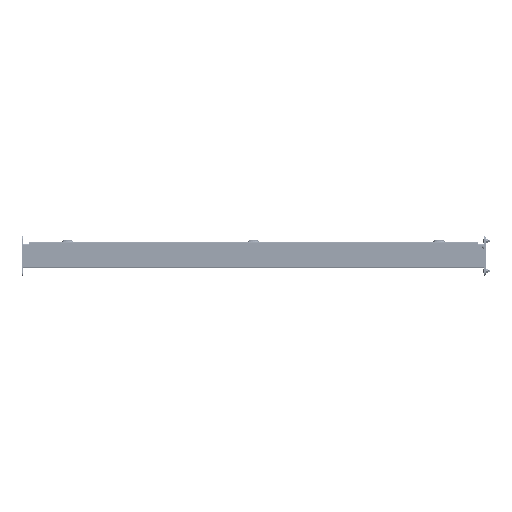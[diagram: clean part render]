
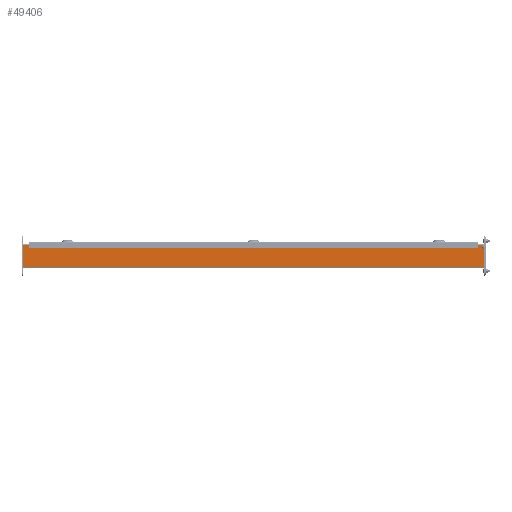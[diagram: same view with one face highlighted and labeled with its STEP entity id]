
A CAD part, left-side view. The second image highlights one B-rep face of the part: STEP entity #49406.
In plain terms, the highlighted planar face has unit normal (-1, 0, 0).
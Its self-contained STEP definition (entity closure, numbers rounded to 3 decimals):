
#3305=PLANE('',#53235);
#4596=FACE_OUTER_BOUND('',#7681,.T.);
#7681=EDGE_LOOP('',(#33479,#33480,#33481,#33482));
#10915=LINE('',#71734,#14943);
#10923=LINE('',#71759,#14951);
#10932=LINE('',#71784,#14960);
#10934=LINE('',#71791,#14962);
#14943=VECTOR('',#58110,0.394);
#14951=VECTOR('',#58140,0.394);
#14960=VECTOR('',#58161,0.394);
#14962=VECTOR('',#58169,0.394);
#21006=VERTEX_POINT('',#71731);
#21007=VERTEX_POINT('',#71733);
#21013=VERTEX_POINT('',#71757);
#21023=VERTEX_POINT('',#71783);
#25724=EDGE_CURVE('',#21007,#21006,#10915,.T.);
#25737=EDGE_CURVE('',#21006,#21013,#10923,.T.);
#25750=EDGE_CURVE('',#21023,#21007,#10932,.T.);
#25754=EDGE_CURVE('',#21013,#21023,#10934,.T.);
#33479=ORIENTED_EDGE('',*,*,#25724,.T.);
#33480=ORIENTED_EDGE('',*,*,#25737,.T.);
#33481=ORIENTED_EDGE('',*,*,#25754,.T.);
#33482=ORIENTED_EDGE('',*,*,#25750,.T.);
#49406=ADVANCED_FACE('',(#4596),#3305,.F.);
#53235=AXIS2_PLACEMENT_3D('',#71790,#58167,#58168);
#58110=DIRECTION('',(0.,1.,0.));
#58140=DIRECTION('',(0.,0.,-1.));
#58161=DIRECTION('',(0.,0.,1.));
#58167=DIRECTION('center_axis',(1.,0.,0.));
#58168=DIRECTION('ref_axis',(0.,0.,-1.));
#58169=DIRECTION('',(0.,-1.,0.));
#71731=CARTESIAN_POINT('',(-1.25,23.813,2.414));
#71733=CARTESIAN_POINT('',(-1.25,-23.813,2.414));
#71734=CARTESIAN_POINT('',(-1.25,-11.906,2.414));
#71757=CARTESIAN_POINT('',(-1.25,23.813,0.086));
#71759=CARTESIAN_POINT('',(-1.25,23.813,2.5));
#71783=CARTESIAN_POINT('',(-1.25,-23.813,0.086));
#71784=CARTESIAN_POINT('',(-1.25,-23.813,0.));
#71790=CARTESIAN_POINT('Origin',(-1.25,0.,1.25));
#71791=CARTESIAN_POINT('',(-1.25,-11.906,0.086));
